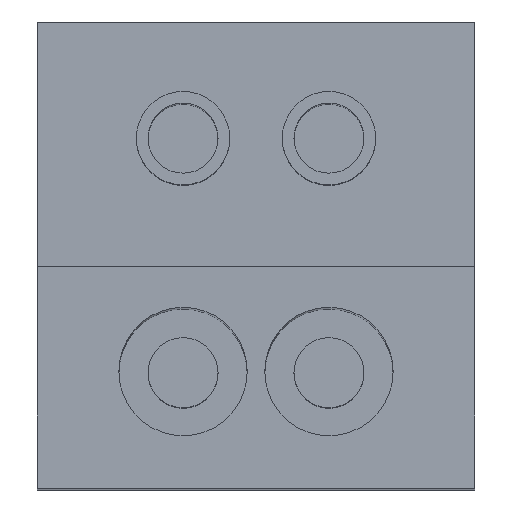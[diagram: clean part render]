
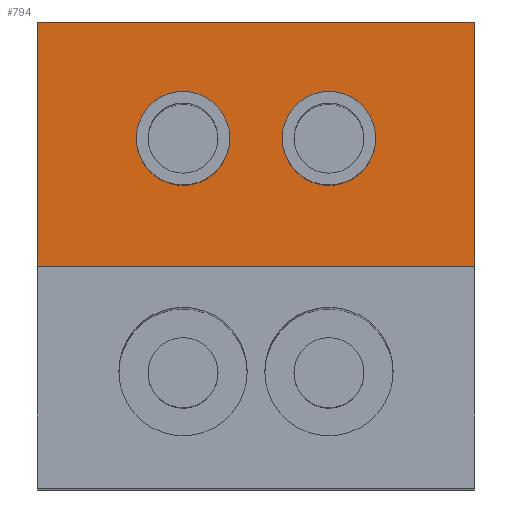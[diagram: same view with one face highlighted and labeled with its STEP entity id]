
A CAD part, top view. The second image highlights one B-rep face of the part: STEP entity #794.
In plain terms, the highlighted planar face has unit normal (0, 0, 1).
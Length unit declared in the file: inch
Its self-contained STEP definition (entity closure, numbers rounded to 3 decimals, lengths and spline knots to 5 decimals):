
#27 = EDGE_CURVE ( 'NONE', #633, #606, #866, .T. ) ;
#37 = EDGE_LOOP ( 'NONE', ( #101, #1715 ) ) ;
#76 = VERTEX_POINT ( 'NONE', #946 ) ;
#101 = ORIENTED_EDGE ( 'NONE', *, *, #1986, .T. ) ;
#110 = VECTOR ( 'NONE', #1901, 39.37008 ) ;
#118 = VERTEX_POINT ( 'NONE', #659 ) ;
#227 = EDGE_CURVE ( 'NONE', #1051, #795, #1501, .T. ) ;
#337 = VERTEX_POINT ( 'NONE', #1331 ) ;
#351 = VERTEX_POINT ( 'NONE', #1424 ) ;
#360 = ORIENTED_EDGE ( 'NONE', *, *, #1841, .F. ) ;
#419 = FACE_OUTER_BOUND ( 'NONE', #1800, .T. ) ;
#437 = ORIENTED_EDGE ( 'NONE', *, *, #1606, .T. ) ;
#444 = ORIENTED_EDGE ( 'NONE', *, *, #830, .F. ) ;
#450 = FACE_BOUND ( 'NONE', #37, .T. ) ;
#474 = CIRCLE ( 'NONE', #1264, 0.008 ) ;
#477 = FACE_BOUND ( 'NONE', #1773, .T. ) ;
#499 = CARTESIAN_POINT ( 'NONE',  ( 0.0375, 0.038, 0.1 ) ) ;
#544 = CIRCLE ( 'NONE', #1098, 0.008 ) ;
#606 = VERTEX_POINT ( 'NONE', #1107 ) ;
#607 = DIRECTION ( 'NONE',  ( 0., -1., 0. ) ) ;
#633 = VERTEX_POINT ( 'NONE', #1724 ) ;
#659 = CARTESIAN_POINT ( 'NONE',  ( -0.0045, 0.06, 0.1 ) ) ;
#662 = CARTESIAN_POINT ( 'NONE',  ( -0.0375, 0.038, 0.1 ) ) ;
#773 = DIRECTION ( 'NONE',  ( 0., 0., -1. ) ) ;
#780 = CARTESIAN_POINT ( 'NONE',  ( 0.0375, 0.038, 0.1 ) ) ;
#794 = ADVANCED_FACE ( 'NONE', ( #477, #450, #419 ), #1445, .F. ) ;
#795 = VERTEX_POINT ( 'NONE', #1258 ) ;
#830 = EDGE_CURVE ( 'NONE', #118, #337, #474, .T. ) ;
#860 = VECTOR ( 'NONE', #1273, 39.37008 ) ;
#865 = EDGE_CURVE ( 'NONE', #76, #351, #544, .T. ) ;
#866 = LINE ( 'NONE', #499, #860 ) ;
#867 = AXIS2_PLACEMENT_3D ( 'NONE', #2000, #1956, #1067 ) ;
#902 = CARTESIAN_POINT ( 'NONE',  ( -0.0375, 0.08, 0.1 ) ) ;
#946 = CARTESIAN_POINT ( 'NONE',  ( 0.0045, 0.06, 0.1 ) ) ;
#1051 = VERTEX_POINT ( 'NONE', #902 ) ;
#1067 = DIRECTION ( 'NONE',  ( 0., 1., 0. ) ) ;
#1076 = ORIENTED_EDGE ( 'NONE', *, *, #27, .F. ) ;
#1098 = AXIS2_PLACEMENT_3D ( 'NONE', #2002, #773, #1560 ) ;
#1107 = CARTESIAN_POINT ( 'NONE',  ( 0.0375, 0.038, 0.1 ) ) ;
#1137 = ORIENTED_EDGE ( 'NONE', *, *, #227, .T. ) ;
#1171 = DIRECTION ( 'NONE',  ( 0., 0., 1. ) ) ;
#1173 = LINE ( 'NONE', #780, #1197 ) ;
#1197 = VECTOR ( 'NONE', #1805, 39.37008 ) ;
#1225 = LINE ( 'NONE', #1896, #110 ) ;
#1241 = AXIS2_PLACEMENT_3D ( 'NONE', #1653, #1806, #2065 ) ;
#1258 = CARTESIAN_POINT ( 'NONE',  ( -0.0375, 0.038, 0.1 ) ) ;
#1264 = AXIS2_PLACEMENT_3D ( 'NONE', #1702, #1171, #1957 ) ;
#1273 = DIRECTION ( 'NONE',  ( 0., -1., 0. ) ) ;
#1331 = CARTESIAN_POINT ( 'NONE',  ( -0.0205, 0.06, 0.1 ) ) ;
#1424 = CARTESIAN_POINT ( 'NONE',  ( 0.0205, 0.06, 0.1 ) ) ;
#1445 = PLANE ( 'NONE',  #1241 ) ;
#1449 = CIRCLE ( 'NONE', #867, 0.008 ) ;
#1481 = DIRECTION ( 'NONE',  ( 0., 1., 0. ) ) ;
#1501 = LINE ( 'NONE', #662, #1851 ) ;
#1525 = DIRECTION ( 'NONE',  ( 0., 0., -1. ) ) ;
#1560 = DIRECTION ( 'NONE',  ( 0., 1., 0. ) ) ;
#1572 = CIRCLE ( 'NONE', #2007, 0.008 ) ;
#1587 = CARTESIAN_POINT ( 'NONE',  ( 0.0125, 0.06, 0.1 ) ) ;
#1599 = EDGE_CURVE ( 'NONE', #606, #795, #1173, .T. ) ;
#1606 = EDGE_CURVE ( 'NONE', #633, #1051, #1225, .T. ) ;
#1653 = CARTESIAN_POINT ( 'NONE',  ( 0.0375, 0.038, 0.1 ) ) ;
#1702 = CARTESIAN_POINT ( 'NONE',  ( -0.0125, 0.06, 0.1 ) ) ;
#1715 = ORIENTED_EDGE ( 'NONE', *, *, #865, .T. ) ;
#1724 = CARTESIAN_POINT ( 'NONE',  ( 0.0375, 0.08, 0.1 ) ) ;
#1773 = EDGE_LOOP ( 'NONE', ( #444, #360 ) ) ;
#1800 = EDGE_LOOP ( 'NONE', ( #1137, #1802, #1076, #437 ) ) ;
#1802 = ORIENTED_EDGE ( 'NONE', *, *, #1599, .F. ) ;
#1805 = DIRECTION ( 'NONE',  ( -1., 0., 0. ) ) ;
#1806 = DIRECTION ( 'NONE',  ( 0., 0., -1. ) ) ;
#1841 = EDGE_CURVE ( 'NONE', #337, #118, #1449, .T. ) ;
#1851 = VECTOR ( 'NONE', #607, 39.37008 ) ;
#1896 = CARTESIAN_POINT ( 'NONE',  ( 0.0375, 0.08, 0.1 ) ) ;
#1901 = DIRECTION ( 'NONE',  ( -1., 0., 0. ) ) ;
#1956 = DIRECTION ( 'NONE',  ( 0., 0., 1. ) ) ;
#1957 = DIRECTION ( 'NONE',  ( 0., 1., 0. ) ) ;
#1986 = EDGE_CURVE ( 'NONE', #351, #76, #1572, .T. ) ;
#2000 = CARTESIAN_POINT ( 'NONE',  ( -0.0125, 0.06, 0.1 ) ) ;
#2002 = CARTESIAN_POINT ( 'NONE',  ( 0.0125, 0.06, 0.1 ) ) ;
#2007 = AXIS2_PLACEMENT_3D ( 'NONE', #1587, #1525, #1481 ) ;
#2065 = DIRECTION ( 'NONE',  ( 0., 1., 0. ) ) ;
